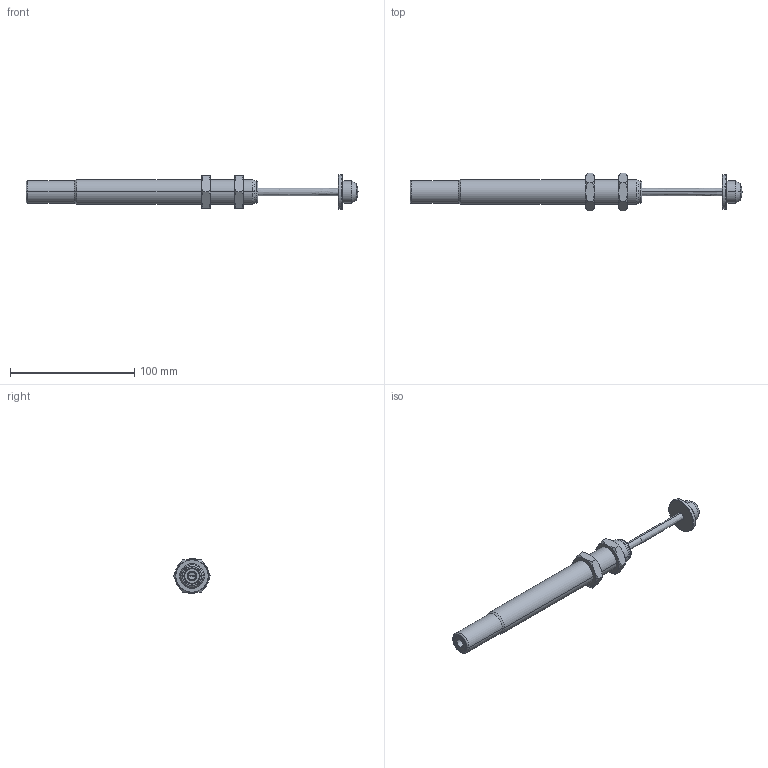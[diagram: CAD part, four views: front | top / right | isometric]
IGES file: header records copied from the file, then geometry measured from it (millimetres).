
Start section: SolidWorks IGES file using analytic representation for surfaces
Global section: file name: D:\IGS跡宒\AC2065-2K(DT).IGS,1; native system: 5HSolidWorks 2013; preprocessor: SolidWorks 2013; author: Administrator; date: 160920.091407; units: inch
Bounding box: 267.2 x 30.02 x 28 mm (x, y, z)
Surface area: 18541.8 mm2 (no closed solid volume)
Topology: 0 solids, 0 shells, 94 faces, 1344 edges, 1343 vertices
Faces by surface type: revolution 68, bspline 26
